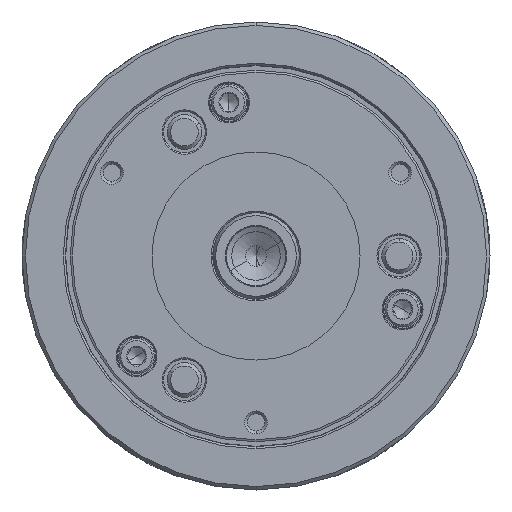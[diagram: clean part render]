
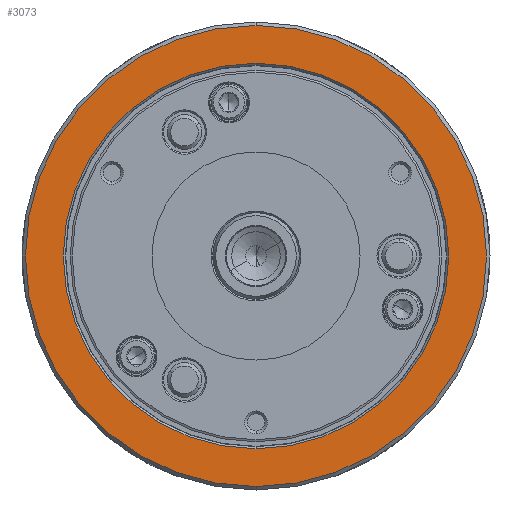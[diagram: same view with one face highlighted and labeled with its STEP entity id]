
A CAD part, left-side view. The second image highlights one B-rep face of the part: STEP entity #3073.
In plain terms, the highlighted planar face has unit normal (-1, 0, 0).
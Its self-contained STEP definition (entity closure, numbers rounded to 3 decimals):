
#259 = DIRECTION ( 'NONE',  ( -1., 0., 0. ) ) ;
#743 = CIRCLE ( 'NONE', #5812, 55.6 ) ;
#1028 = DIRECTION ( 'NONE',  ( 1., 0., 0. ) ) ;
#3073 = ADVANCED_FACE ( 'NONE', ( #26484, #56450 ), #7243, .T. ) ;
#5812 = AXIS2_PLACEMENT_3D ( 'NONE', #7013, #1028, #39965 ) ;
#6662 = AXIS2_PLACEMENT_3D ( 'NONE', #58796, #15962, #35377 ) ;
#7013 = CARTESIAN_POINT ( 'NONE',  ( -72., 0., 0. ) ) ;
#7243 = PLANE ( 'NONE',  #61616 ) ;
#9492 = CARTESIAN_POINT ( 'NONE',  ( -72., 55.6, 0. ) ) ;
#10806 = CIRCLE ( 'NONE', #6662, 55.6 ) ;
#15962 = DIRECTION ( 'NONE',  ( 1., 0., 0. ) ) ;
#15998 = EDGE_CURVE ( 'NONE', #44295, #16098, #10806, .T. ) ;
#16098 = VERTEX_POINT ( 'NONE', #59347 ) ;
#17013 = CARTESIAN_POINT ( 'NONE',  ( -72., 0., -66.5 ) ) ;
#17394 = CARTESIAN_POINT ( 'NONE',  ( -72., 0., 55.6 ) ) ;
#22177 = VERTEX_POINT ( 'NONE', #17013 ) ;
#23632 = DIRECTION ( 'NONE',  ( 0., 0., -1. ) ) ;
#25961 = CIRCLE ( 'NONE', #27948, 66.5 ) ;
#26484 = FACE_BOUND ( 'NONE', #27595, .T. ) ;
#26753 = CARTESIAN_POINT ( 'NONE',  ( -72., 0., 66.5 ) ) ;
#27507 = EDGE_CURVE ( 'NONE', #16098, #44295, #743, .T. ) ;
#27595 = EDGE_LOOP ( 'NONE', ( #45890, #59733 ) ) ;
#27948 = AXIS2_PLACEMENT_3D ( 'NONE', #51353, #47830, #23632 ) ;
#30487 = CIRCLE ( 'NONE', #49869, 66.5 ) ;
#31040 = CARTESIAN_POINT ( 'NONE',  ( -72., 0., 0. ) ) ;
#35377 = DIRECTION ( 'NONE',  ( 0., 0., -1. ) ) ;
#38524 = ORIENTED_EDGE ( 'NONE', *, *, #59099, .F. ) ;
#39965 = DIRECTION ( 'NONE',  ( 0., 0., -1. ) ) ;
#44295 = VERTEX_POINT ( 'NONE', #17394 ) ;
#45890 = ORIENTED_EDGE ( 'NONE', *, *, #15998, .T. ) ;
#47180 = EDGE_LOOP ( 'NONE', ( #54447, #38524 ) ) ;
#47830 = DIRECTION ( 'NONE',  ( 1., 0., 0. ) ) ;
#49869 = AXIS2_PLACEMENT_3D ( 'NONE', #31040, #50210, #55642 ) ;
#50210 = DIRECTION ( 'NONE',  ( 1., 0., 0. ) ) ;
#51353 = CARTESIAN_POINT ( 'NONE',  ( -72., 0., 0. ) ) ;
#51431 = EDGE_CURVE ( 'NONE', #22177, #60942, #25961, .T. ) ;
#52562 = DIRECTION ( 'NONE',  ( 0., 0., 1. ) ) ;
#54447 = ORIENTED_EDGE ( 'NONE', *, *, #51431, .F. ) ;
#55642 = DIRECTION ( 'NONE',  ( 0., 0., -1. ) ) ;
#56450 = FACE_OUTER_BOUND ( 'NONE', #47180, .T. ) ;
#58796 = CARTESIAN_POINT ( 'NONE',  ( -72., 0., 0. ) ) ;
#59099 = EDGE_CURVE ( 'NONE', #60942, #22177, #30487, .T. ) ;
#59347 = CARTESIAN_POINT ( 'NONE',  ( -72., 0., -55.6 ) ) ;
#59733 = ORIENTED_EDGE ( 'NONE', *, *, #27507, .T. ) ;
#60942 = VERTEX_POINT ( 'NONE', #26753 ) ;
#61616 = AXIS2_PLACEMENT_3D ( 'NONE', #9492, #259, #52562 ) ;
